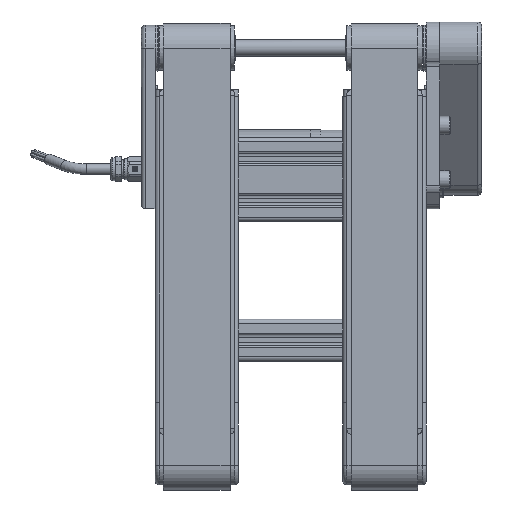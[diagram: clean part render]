
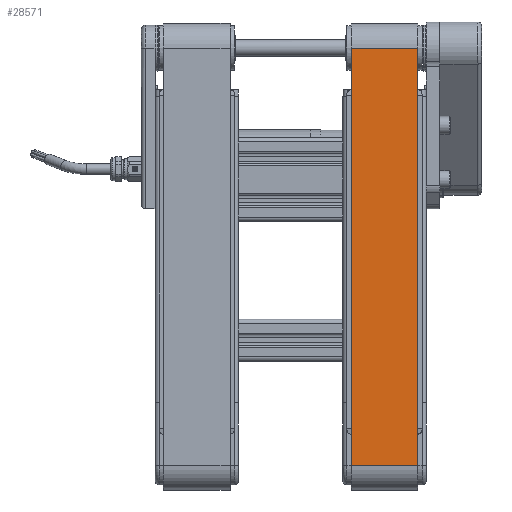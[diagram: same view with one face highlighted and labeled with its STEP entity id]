
A CAD part, front view. The second image highlights one B-rep face of the part: STEP entity #28571.
In plain terms, the highlighted planar face has unit normal (0, -1, 0).
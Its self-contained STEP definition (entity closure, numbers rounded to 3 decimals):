
#3645=FACE_OUTER_BOUND('',#5277,.T.);
#5277=EDGE_LOOP('',(#21355,#21356,#21357,#21358));
#7186=LINE('',#46432,#9405);
#7189=LINE('',#46441,#9408);
#7190=LINE('',#46442,#9409);
#7191=LINE('',#46443,#9410);
#9405=VECTOR('',#36199,10.);
#9408=VECTOR('',#36206,10.);
#9409=VECTOR('',#36207,10.);
#9410=VECTOR('',#36208,10.);
#11939=VERTEX_POINT('',#46429);
#11940=VERTEX_POINT('',#46431);
#11943=VERTEX_POINT('',#46439);
#11944=VERTEX_POINT('',#46440);
#15332=EDGE_CURVE('',#11940,#11939,#7186,.T.);
#15336=EDGE_CURVE('',#11943,#11944,#7189,.T.);
#15337=EDGE_CURVE('',#11940,#11944,#7190,.T.);
#15338=EDGE_CURVE('',#11943,#11939,#7191,.T.);
#21355=ORIENTED_EDGE('',*,*,#15336,.T.);
#21356=ORIENTED_EDGE('',*,*,#15337,.F.);
#21357=ORIENTED_EDGE('',*,*,#15332,.T.);
#21358=ORIENTED_EDGE('',*,*,#15338,.F.);
#25920=PLANE('',#30810);
#28571=ADVANCED_FACE('',(#3645),#25920,.T.);
#30810=AXIS2_PLACEMENT_3D('',#46438,#36204,#36205);
#36199=DIRECTION('',(0.,0.,-1.));
#36204=DIRECTION('center_axis',(0.,-1.,0.));
#36205=DIRECTION('ref_axis',(-1.,0.,0.));
#36206=DIRECTION('',(0.,0.,1.));
#36207=DIRECTION('',(1.,0.,0.));
#36208=DIRECTION('',(-1.,0.,0.));
#46429=CARTESIAN_POINT('',(-16.,-11.825,-103.5));
#46431=CARTESIAN_POINT('',(-16.,-11.825,96.5));
#46432=CARTESIAN_POINT('',(-16.,-11.825,96.5));
#46438=CARTESIAN_POINT('Origin',(0.,-11.825,
-103.5));
#46439=CARTESIAN_POINT('',(16.,-11.825,-103.5));
#46440=CARTESIAN_POINT('',(16.,-11.825,96.5));
#46441=CARTESIAN_POINT('',(16.,-11.825,96.5));
#46442=CARTESIAN_POINT('',(0.,-11.825,96.5));
#46443=CARTESIAN_POINT('',(0.,-11.825,-103.5));
